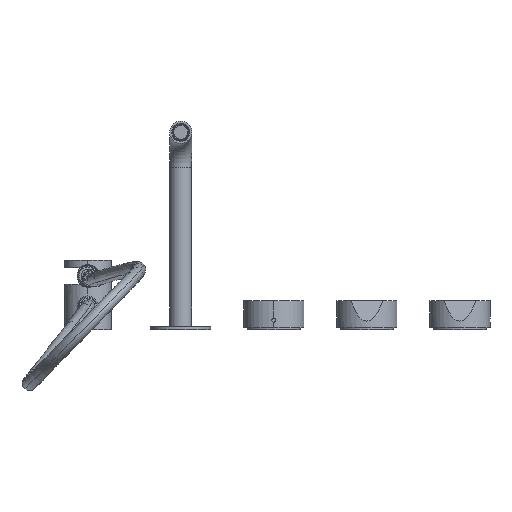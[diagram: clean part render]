
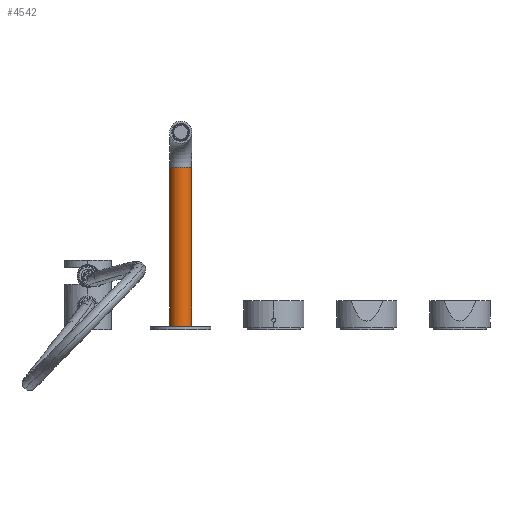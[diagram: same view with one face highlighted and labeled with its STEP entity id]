
A CAD part, front view. The second image highlights one B-rep face of the part: STEP entity #4542.
In plain terms, the highlighted cylindrical face has radius 12 mm (diameter 24 mm), a partial arc.
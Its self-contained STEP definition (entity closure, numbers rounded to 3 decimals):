
#2638=CARTESIAN_POINT('',(-100.,0.,217.9));
#2639=DIRECTION('',(0.,0.,-1.));
#2640=DIRECTION('',(1.,0.,0.));
#2641=AXIS2_PLACEMENT_3D('',#2638,#2639,#2640);
#2663=DIRECTION('',(0.,0.,-1.));
#2664=VECTOR('',#2663,173.);
#2665=CARTESIAN_POINT('',(-88.,0.,217.9));
#2666=LINE('',#2665,#2664);
#2791=CARTESIAN_POINT('',(-100.,0.,44.9));
#2792=DIRECTION('',(0.,0.,-1.));
#2793=DIRECTION('',(1.,0.,0.));
#2794=AXIS2_PLACEMENT_3D('',#2791,#2792,#2793);
#2796=DIRECTION('',(0.,0.,-1.));
#2797=VECTOR('',#2796,173.);
#2798=CARTESIAN_POINT('',(-112.,0.,217.9));
#2799=LINE('',#2798,#2797);
#2828=CARTESIAN_POINT('',(-88.,0.,217.9));
#2830=VERTEX_POINT('',#2828);
#2832=CARTESIAN_POINT('',(-112.,0.,217.9));
#2833=VERTEX_POINT('',#2832);
#3014=CARTESIAN_POINT('',(-112.,0.,44.9));
#3015=CARTESIAN_POINT('',(-88.,0.,44.9));
#3016=VERTEX_POINT('',#3014);
#3017=VERTEX_POINT('',#3015);
#4531=CARTESIAN_POINT('',(-100.,0.,42.9));
#4532=DIRECTION('',(0.,0.,-1.));
#4533=DIRECTION('',(-1.,0.,0.));
#4534=AXIS2_PLACEMENT_3D('',#4531,#4532,#4533);
#4535=CYLINDRICAL_SURFACE('',#4534,12.);
#4536=ORIENTED_EDGE('',*,*,#4253,.T.);
#4537=ORIENTED_EDGE('',*,*,#4229,.F.);
#4538=ORIENTED_EDGE('',*,*,#4185,.F.);
#4539=ORIENTED_EDGE('',*,*,#4226,.T.);
#4540=EDGE_LOOP('',(#4536,#4537,#4538,#4539));
#4541=FACE_OUTER_BOUND('',#4540,.F.);
#2642=CIRCLE('',#2641,12.);
#2795=CIRCLE('',#2794,12.);
#4185=EDGE_CURVE('',#2830,#2833,#2642,.T.);
#4226=EDGE_CURVE('',#2830,#3017,#2666,.T.);
#4229=EDGE_CURVE('',#2833,#3016,#2799,.T.);
#4253=EDGE_CURVE('',#3017,#3016,#2795,.T.);
#4542=ADVANCED_FACE('',(#4541),#4535,.T.);
